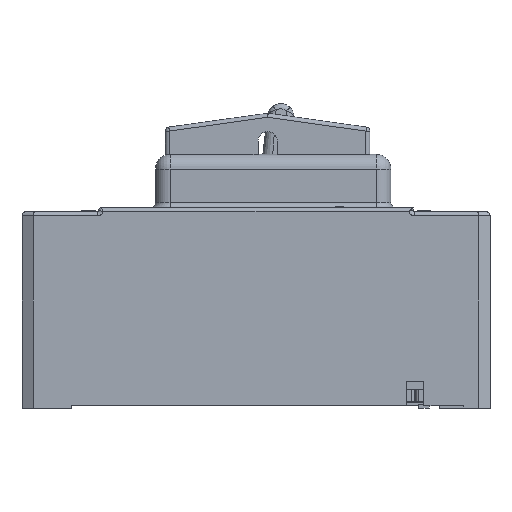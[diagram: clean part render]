
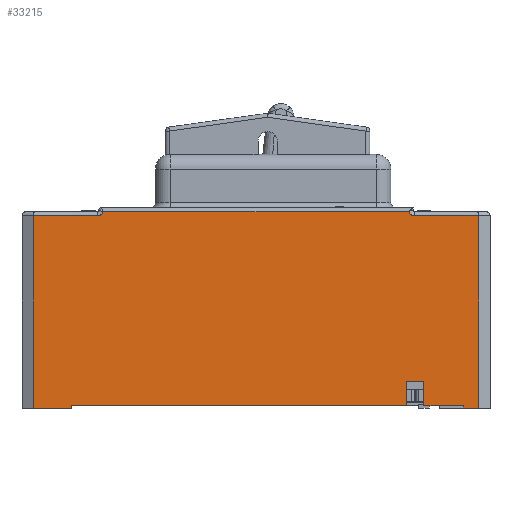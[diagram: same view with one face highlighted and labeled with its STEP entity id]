
A CAD part, left-side view. The second image highlights one B-rep face of the part: STEP entity #33215.
In plain terms, the highlighted planar face has unit normal (-1, 0, 0).
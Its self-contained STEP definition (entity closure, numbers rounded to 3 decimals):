
#1294 = CARTESIAN_POINT ( 'NONE',  ( -56.25, -62.8, 92.737 ) ) ;
#1698 = VECTOR ( 'NONE', #26468, 1000. ) ;
#1794 = LINE ( 'NONE', #7470, #38236 ) ;
#2154 = DIRECTION ( 'NONE',  ( 1., 0., 0. ) ) ;
#2847 = PLANE ( 'NONE',  #10458 ) ;
#2911 = VERTEX_POINT ( 'NONE', #22799 ) ;
#2927 = ORIENTED_EDGE ( 'NONE', *, *, #5031, .T. ) ;
#2952 = EDGE_CURVE ( 'NONE', #32342, #31873, #14473, .T. ) ;
#3393 = VERTEX_POINT ( 'NONE', #3866 ) ;
#3851 = CARTESIAN_POINT ( 'NONE',  ( -56.25, -83.2, -45. ) ) ;
#3866 = CARTESIAN_POINT ( 'NONE',  ( -56.25, -77.5, -45. ) ) ;
#4221 = ORIENTED_EDGE ( 'NONE', *, *, #12344, .F. ) ;
#4620 = VECTOR ( 'NONE', #38439, 1000. ) ;
#4683 = DIRECTION ( 'NONE',  ( 0., 1., 0. ) ) ;
#5031 = EDGE_CURVE ( 'NONE', #16027, #9508, #29772, .T. ) ;
#5098 = DIRECTION ( 'NONE',  ( 0., 0., -1. ) ) ;
#5303 = CARTESIAN_POINT ( 'NONE',  ( -56.25, -59.242, 29. ) ) ;
#5463 = DIRECTION ( 'NONE',  ( 0., -1., 0. ) ) ;
#5568 = CARTESIAN_POINT ( 'NONE',  ( -56.25, 69., -45. ) ) ;
#6206 = CARTESIAN_POINT ( 'NONE',  ( -56.25, -87.5, -45. ) ) ;
#6401 = ORIENTED_EDGE ( 'NONE', *, *, #2952, .T. ) ;
#6634 = VERTEX_POINT ( 'NONE', #5568 ) ;
#6822 = DIRECTION ( 'NONE',  ( 0., 1., 0. ) ) ;
#7470 = CARTESIAN_POINT ( 'NONE',  ( -56.25, 57.742, 28.5 ) ) ;
#7617 = CARTESIAN_POINT ( 'NONE',  ( -56.25, -62.8, -35. ) ) ;
#7899 = VECTOR ( 'NONE', #32199, 1000. ) ;
#8200 = CARTESIAN_POINT ( 'NONE',  ( -56.25, -59.242, 27. ) ) ;
#8215 = CARTESIAN_POINT ( 'NONE',  ( -56.25, -56.3, 92.737 ) ) ;
#8763 = ORIENTED_EDGE ( 'NONE', *, *, #11123, .T. ) ;
#8826 = ORIENTED_EDGE ( 'NONE', *, *, #9804, .T. ) ;
#9465 = CARTESIAN_POINT ( 'NONE',  ( -56.25, -77.5, 144.712 ) ) ;
#9508 = VERTEX_POINT ( 'NONE', #8200 ) ;
#9733 = EDGE_CURVE ( 'NONE', #13426, #16027, #13771, .T. ) ;
#9804 = EDGE_CURVE ( 'NONE', #18283, #2911, #10758, .T. ) ;
#9997 = LINE ( 'NONE', #8215, #16020 ) ;
#10458 = AXIS2_PLACEMENT_3D ( 'NONE', #6206, #32103, #15824 ) ;
#10758 = LINE ( 'NONE', #17117, #29978 ) ;
#11123 = EDGE_CURVE ( 'NONE', #13841, #3393, #25136, .T. ) ;
#12189 = FACE_OUTER_BOUND ( 'NONE', #31769, .T. ) ;
#12344 = EDGE_CURVE ( 'NONE', #19606, #6634, #15398, .T. ) ;
#12886 = ORIENTED_EDGE ( 'NONE', *, *, #27900, .T. ) ;
#13121 = CARTESIAN_POINT ( 'NONE',  ( -56.25, 59.242, 27. ) ) ;
#13202 = LINE ( 'NONE', #21622, #4620 ) ;
#13426 = VERTEX_POINT ( 'NONE', #31394 ) ;
#13771 = LINE ( 'NONE', #3851, #1698 ) ;
#13841 = VERTEX_POINT ( 'NONE', #31522 ) ;
#14473 = LINE ( 'NONE', #1294, #39300 ) ;
#14926 = CARTESIAN_POINT ( 'NONE',  ( -56.25, -83.2, 27. ) ) ;
#15060 = ORIENTED_EDGE ( 'NONE', *, *, #15447, .T. ) ;
#15398 = LINE ( 'NONE', #38501, #32073 ) ;
#15447 = EDGE_CURVE ( 'NONE', #21398, #32342, #40200, .T. ) ;
#15824 = DIRECTION ( 'NONE',  ( 0., -1., 0. ) ) ;
#15854 = CIRCLE ( 'NONE', #39514, 2. ) ;
#15974 = DIRECTION ( 'NONE',  ( 0., 0., -1. ) ) ;
#16020 = VECTOR ( 'NONE', #5098, 1000. ) ;
#16027 = VERTEX_POINT ( 'NONE', #14926 ) ;
#16520 = ORIENTED_EDGE ( 'NONE', *, *, #34686, .T. ) ;
#17117 = CARTESIAN_POINT ( 'NONE',  ( -56.25, 83.2, 27. ) ) ;
#17242 = VERTEX_POINT ( 'NONE', #25332 ) ;
#18012 = LINE ( 'NONE', #29504, #35715 ) ;
#18238 = DIRECTION ( 'NONE',  ( 0., -1., 0. ) ) ;
#18283 = VERTEX_POINT ( 'NONE', #13121 ) ;
#18430 = EDGE_CURVE ( 'NONE', #33186, #37152, #1794, .T. ) ;
#19046 = ORIENTED_EDGE ( 'NONE', *, *, #41618, .T. ) ;
#19431 = CARTESIAN_POINT ( 'NONE',  ( -56.25, 69., -44. ) ) ;
#19606 = VERTEX_POINT ( 'NONE', #19431 ) ;
#20301 = VECTOR ( 'NONE', #18238, 1000. ) ;
#20376 = VECTOR ( 'NONE', #28193, 1000. ) ;
#21398 = VERTEX_POINT ( 'NONE', #30062 ) ;
#21507 = DIRECTION ( 'NONE',  ( 0., -1., 0. ) ) ;
#21622 = CARTESIAN_POINT ( 'NONE',  ( -56.25, 83.2, -45. ) ) ;
#22799 = CARTESIAN_POINT ( 'NONE',  ( -56.25, 83.2, 27. ) ) ;
#23351 = CARTESIAN_POINT ( 'NONE',  ( -56.25, 87.5, 27. ) ) ;
#25019 = VECTOR ( 'NONE', #21507, 1000. ) ;
#25136 = LINE ( 'NONE', #9465, #7899 ) ;
#25332 = CARTESIAN_POINT ( 'NONE',  ( -56.25, -56.3, -44. ) ) ;
#25371 = ORIENTED_EDGE ( 'NONE', *, *, #37103, .F. ) ;
#25392 = EDGE_CURVE ( 'NONE', #37152, #18283, #15854, .T. ) ;
#25962 = LINE ( 'NONE', #40539, #20376 ) ;
#26361 = EDGE_CURVE ( 'NONE', #31873, #13841, #29921, .T. ) ;
#26468 = DIRECTION ( 'NONE',  ( 0., 0., 1. ) ) ;
#26520 = ORIENTED_EDGE ( 'NONE', *, *, #26361, .T. ) ;
#26600 = DIRECTION ( 'NONE',  ( 0., 0., -1. ) ) ;
#26608 = DIRECTION ( 'NONE',  ( 0., 1., 0. ) ) ;
#27488 = DIRECTION ( 'NONE',  ( 0., 1., 0. ) ) ;
#27537 = CARTESIAN_POINT ( 'NONE',  ( -56.25, 83.2, -45. ) ) ;
#27900 = EDGE_CURVE ( 'NONE', #31261, #6634, #39482, .T. ) ;
#27954 = CIRCLE ( 'NONE', #40535, 2. ) ;
#28193 = DIRECTION ( 'NONE',  ( 0., -1., 0. ) ) ;
#28363 = VECTOR ( 'NONE', #5463, 1000. ) ;
#28578 = CARTESIAN_POINT ( 'NONE',  ( -56.25, -57.306, 28.5 ) ) ;
#29504 = CARTESIAN_POINT ( 'NONE',  ( -56.25, 69., -44. ) ) ;
#29772 = LINE ( 'NONE', #23351, #40464 ) ;
#29921 = LINE ( 'NONE', #40364, #20301 ) ;
#29978 = VECTOR ( 'NONE', #6822, 1000. ) ;
#30062 = CARTESIAN_POINT ( 'NONE',  ( -56.25, -56.3, -35. ) ) ;
#30782 = ORIENTED_EDGE ( 'NONE', *, *, #38008, .T. ) ;
#31185 = DIRECTION ( 'NONE',  ( 1., 0., 0. ) ) ;
#31261 = VERTEX_POINT ( 'NONE', #27537 ) ;
#31305 = CARTESIAN_POINT ( 'NONE',  ( -56.25, 57.306, 28.5 ) ) ;
#31394 = CARTESIAN_POINT ( 'NONE',  ( -56.25, -83.2, -45. ) ) ;
#31522 = CARTESIAN_POINT ( 'NONE',  ( -56.25, -77.5, -44. ) ) ;
#31769 = EDGE_LOOP ( 'NONE', ( #25371, #15060, #6401, #26520, #8763, #16520, #40661, #2927, #36252, #38334, #36910, #8826, #19046, #12886, #4221, #30782 ) ) ;
#31845 = EDGE_CURVE ( 'NONE', #9508, #33186, #27954, .T. ) ;
#31873 = VERTEX_POINT ( 'NONE', #33879 ) ;
#32073 = VECTOR ( 'NONE', #15974, 1000. ) ;
#32103 = DIRECTION ( 'NONE',  ( -1., 0., 0. ) ) ;
#32199 = DIRECTION ( 'NONE',  ( 0., 0., -1. ) ) ;
#32342 = VERTEX_POINT ( 'NONE', #7617 ) ;
#32631 = DIRECTION ( 'NONE',  ( 0., -1., 0. ) ) ;
#33186 = VERTEX_POINT ( 'NONE', #28578 ) ;
#33215 = ADVANCED_FACE ( 'NONE', ( #12189 ), #2847, .T. ) ;
#33879 = CARTESIAN_POINT ( 'NONE',  ( -56.25, -62.8, -44. ) ) ;
#34686 = EDGE_CURVE ( 'NONE', #3393, #13426, #25962, .T. ) ;
#35715 = VECTOR ( 'NONE', #32631, 1000. ) ;
#36252 = ORIENTED_EDGE ( 'NONE', *, *, #31845, .T. ) ;
#36577 = DIRECTION ( 'NONE',  ( 0., 1., 0. ) ) ;
#36910 = ORIENTED_EDGE ( 'NONE', *, *, #25392, .T. ) ;
#37103 = EDGE_CURVE ( 'NONE', #21398, #17242, #9997, .T. ) ;
#37152 = VERTEX_POINT ( 'NONE', #31305 ) ;
#37924 = CARTESIAN_POINT ( 'NONE',  ( -56.25, -62.8, -35. ) ) ;
#38003 = CARTESIAN_POINT ( 'NONE',  ( -56.25, -87.5, -45. ) ) ;
#38008 = EDGE_CURVE ( 'NONE', #19606, #17242, #18012, .T. ) ;
#38236 = VECTOR ( 'NONE', #36577, 1000. ) ;
#38334 = ORIENTED_EDGE ( 'NONE', *, *, #18430, .T. ) ;
#38439 = DIRECTION ( 'NONE',  ( 0., 0., -1. ) ) ;
#38501 = CARTESIAN_POINT ( 'NONE',  ( -56.25, 69., 144.712 ) ) ;
#39300 = VECTOR ( 'NONE', #26600, 1000. ) ;
#39482 = LINE ( 'NONE', #38003, #28363 ) ;
#39514 = AXIS2_PLACEMENT_3D ( 'NONE', #40944, #2154, #4683 ) ;
#40200 = LINE ( 'NONE', #37924, #25019 ) ;
#40364 = CARTESIAN_POINT ( 'NONE',  ( -56.25, 69., -44. ) ) ;
#40464 = VECTOR ( 'NONE', #26608, 1000. ) ;
#40535 = AXIS2_PLACEMENT_3D ( 'NONE', #5303, #31185, #27488 ) ;
#40539 = CARTESIAN_POINT ( 'NONE',  ( -56.25, -87.5, -45. ) ) ;
#40661 = ORIENTED_EDGE ( 'NONE', *, *, #9733, .T. ) ;
#40944 = CARTESIAN_POINT ( 'NONE',  ( -56.25, 59.242, 29. ) ) ;
#41618 = EDGE_CURVE ( 'NONE', #2911, #31261, #13202, .T. ) ;
